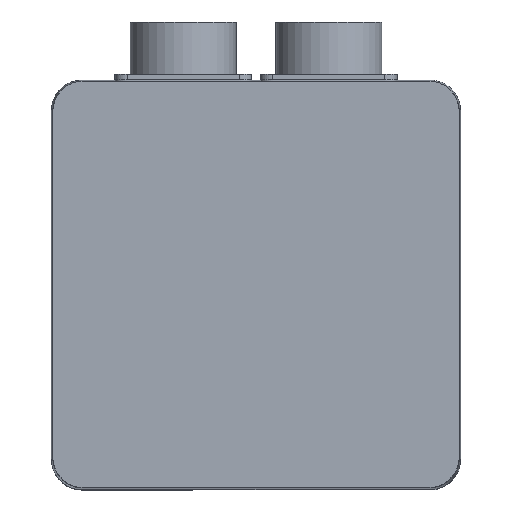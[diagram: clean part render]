
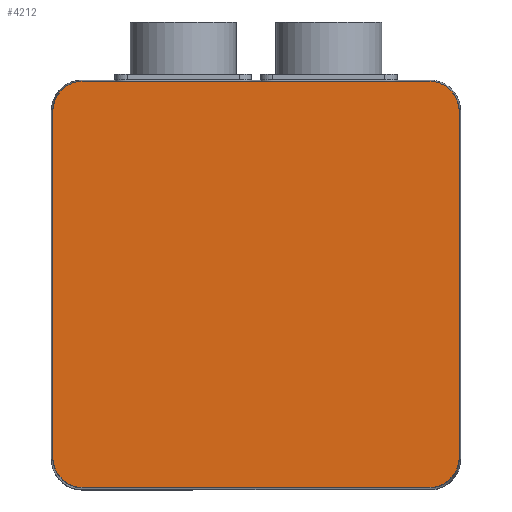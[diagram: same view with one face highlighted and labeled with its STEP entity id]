
A CAD part, top view. The second image highlights one B-rep face of the part: STEP entity #4212.
In plain terms, the highlighted planar face has unit normal (0, 0, 1).
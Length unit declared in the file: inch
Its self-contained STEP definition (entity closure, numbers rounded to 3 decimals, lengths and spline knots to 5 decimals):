
#3676=CARTESIAN_POINT('',(1.675,1.425,5.195));
#3677=VERTEX_POINT('',#3676);
#3684=CARTESIAN_POINT('',(1.675,-1.425,5.195));
#3685=VERTEX_POINT('',#3684);
#3686=CARTESIAN_POINT('',(1.675,1.425,5.195));
#3687=DIRECTION('',(0.0,-1.0,0.0));
#3688=VECTOR('',#3687,2.85);
#3689=LINE('',#3686,#3688);
#3690=EDGE_CURVE('',#3677,#3685,#3689,.T.);
#3755=CARTESIAN_POINT('',(1.425,1.675,5.195));
#3756=VERTEX_POINT('',#3755);
#3763=CARTESIAN_POINT('',(1.425,1.425,5.195));
#3764=DIRECTION('',(0.0,0.0,-1.));
#3765=DIRECTION('',(0.707,0.707,0.0));
#3766=AXIS2_PLACEMENT_3D('',#3763,#3764,#3765);
#3767=CIRCLE('',#3766,0.25);
#3768=EDGE_CURVE('',#3756,#3677,#3767,.T.);
#3818=CARTESIAN_POINT('',(-1.425,1.675,5.195));
#3819=VERTEX_POINT('',#3818);
#3826=CARTESIAN_POINT('',(-1.425,1.675,5.195));
#3827=DIRECTION('',(1.0,0.0,0.0));
#3828=VECTOR('',#3827,2.85);
#3829=LINE('',#3826,#3828);
#3830=EDGE_CURVE('',#3819,#3756,#3829,.T.);
#3883=CARTESIAN_POINT('',(-1.675,1.425,5.195));
#3884=VERTEX_POINT('',#3883);
#3891=CARTESIAN_POINT('',(-1.425,1.425,5.195));
#3892=DIRECTION('',(0.0,0.0,-1.));
#3893=DIRECTION('',(-0.707,0.707,0.0));
#3894=AXIS2_PLACEMENT_3D('',#3891,#3892,#3893);
#3895=CIRCLE('',#3894,0.25);
#3896=EDGE_CURVE('',#3884,#3819,#3895,.T.);
#3969=CARTESIAN_POINT('',(1.425,-1.675,5.195));
#3970=VERTEX_POINT('',#3969);
#3977=CARTESIAN_POINT('',(-1.425,-1.675,5.195));
#3978=VERTEX_POINT('',#3977);
#3979=CARTESIAN_POINT('',(1.425,-1.675,5.195));
#3980=DIRECTION('',(-1.0,0.0,0.0));
#3981=VECTOR('',#3980,2.85);
#3982=LINE('',#3979,#3981);
#3983=EDGE_CURVE('',#3970,#3978,#3982,.T.);
#4001=CARTESIAN_POINT('',(1.425,-1.425,5.195));
#4002=DIRECTION('',(0.0,0.0,-1.));
#4003=DIRECTION('',(0.707,-0.707,0.0));
#4004=AXIS2_PLACEMENT_3D('',#4001,#4002,#4003);
#4005=CIRCLE('',#4004,0.25);
#4006=EDGE_CURVE('',#3685,#3970,#4005,.T.);
#4173=CARTESIAN_POINT('',(-1.675,-1.425,5.195));
#4174=VERTEX_POINT('',#4173);
#4181=CARTESIAN_POINT('',(-1.675,-1.425,5.195));
#4182=DIRECTION('',(0.0,1.0,0.0));
#4183=VECTOR('',#4182,2.85);
#4184=LINE('',#4181,#4183);
#4185=EDGE_CURVE('',#4174,#3884,#4184,.T.);
#4191=CARTESIAN_POINT('',(0.,0.,5.195));
#4192=DIRECTION('',(0.0,0.0,1.0));
#4193=DIRECTION('',(1.0,0.0,0.0));
#4194=AXIS2_PLACEMENT_3D('',#4191,#4192,#4193);
#4195=PLANE('',#4194);
#4196=CARTESIAN_POINT('',(-1.425,-1.425,5.195));
#4197=DIRECTION('',(0.0,0.0,-1.));
#4198=DIRECTION('',(-0.707,-0.707,0.0));
#4199=AXIS2_PLACEMENT_3D('',#4196,#4197,#4198);
#4200=CIRCLE('',#4199,0.25);
#4201=EDGE_CURVE('',#3978,#4174,#4200,.T.);
#4202=ORIENTED_EDGE('',*,*,#4201,.F.);
#4203=ORIENTED_EDGE('',*,*,#3983,.F.);
#4204=ORIENTED_EDGE('',*,*,#4006,.F.);
#4205=ORIENTED_EDGE('',*,*,#3690,.F.);
#4206=ORIENTED_EDGE('',*,*,#3768,.F.);
#4207=ORIENTED_EDGE('',*,*,#3830,.F.);
#4208=ORIENTED_EDGE('',*,*,#3896,.F.);
#4209=ORIENTED_EDGE('',*,*,#4185,.F.);
#4210=EDGE_LOOP('',(#4202,#4203,#4204,#4205,#4206,#4207,#4208,#4209));
#4211=FACE_OUTER_BOUND('',#4210,.T.);
#4212=ADVANCED_FACE('',(#4211),#4195,.T.);
